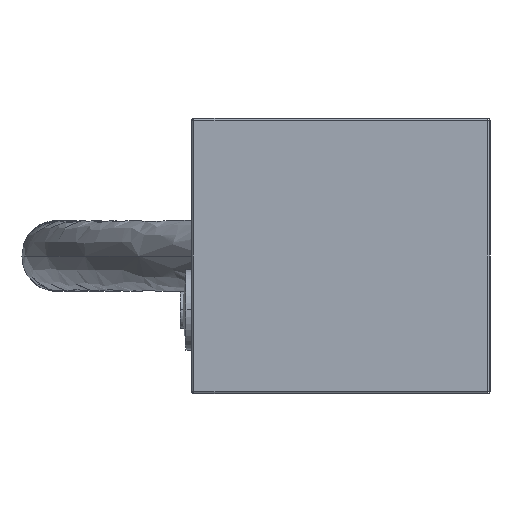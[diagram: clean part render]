
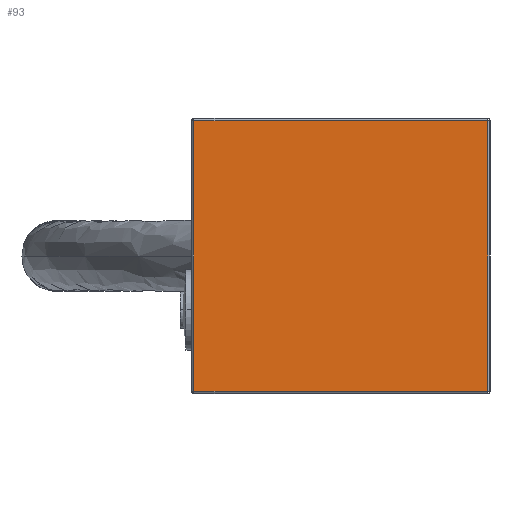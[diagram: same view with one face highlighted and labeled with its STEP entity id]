
A CAD part, left-side view. The second image highlights one B-rep face of the part: STEP entity #93.
In plain terms, the highlighted planar face has unit normal (-1, 0, 0).
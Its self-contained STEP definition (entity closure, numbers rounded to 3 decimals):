
#93 = ADVANCED_FACE ( 'NONE', ( #2069 ), #1743, .F. ) ;
#281 = ORIENTED_EDGE ( 'NONE', *, *, #1241, .F. ) ;
#501 = DIRECTION ( 'NONE',  ( 0., 0., -1. ) ) ;
#613 = EDGE_LOOP ( 'NONE', ( #1952, #281, #618, #2633 ) ) ;
#616 = AXIS2_PLACEMENT_3D ( 'NONE', #2691, #1136, #2940 ) ;
#618 = ORIENTED_EDGE ( 'NONE', *, *, #1751, .F. ) ;
#682 = CARTESIAN_POINT ( 'NONE',  ( 0., 25.8, -12. ) ) ;
#814 = VECTOR ( 'NONE', #501, 1000. ) ;
#968 = VERTEX_POINT ( 'NONE', #2446 ) ;
#987 = CARTESIAN_POINT ( 'NONE',  ( 0., 0.2, 11.8 ) ) ;
#1098 = EDGE_CURVE ( 'NONE', #1221, #1744, #1705, .T. ) ;
#1130 = EDGE_CURVE ( 'NONE', #1298, #1221, #2116, .T. ) ;
#1136 = DIRECTION ( 'NONE',  ( 1., 0., 0. ) ) ;
#1143 = CARTESIAN_POINT ( 'NONE',  ( 0., 0.2, -11.8 ) ) ;
#1221 = VERTEX_POINT ( 'NONE', #1548 ) ;
#1241 = EDGE_CURVE ( 'NONE', #968, #1298, #1870, .T. ) ;
#1298 = VERTEX_POINT ( 'NONE', #1328 ) ;
#1328 = CARTESIAN_POINT ( 'NONE',  ( 0., 0.2, -11.8 ) ) ;
#1548 = CARTESIAN_POINT ( 'NONE',  ( 0., 25.8, -11.8 ) ) ;
#1584 = VECTOR ( 'NONE', #1962, 1000. ) ;
#1705 = LINE ( 'NONE', #682, #1584 ) ;
#1743 = PLANE ( 'NONE',  #616 ) ;
#1744 = VERTEX_POINT ( 'NONE', #3295 ) ;
#1751 = EDGE_CURVE ( 'NONE', #1744, #968, #2826, .T. ) ;
#1870 = LINE ( 'NONE', #3331, #814 ) ;
#1946 = VECTOR ( 'NONE', #2311, 1000. ) ;
#1952 = ORIENTED_EDGE ( 'NONE', *, *, #1130, .F. ) ;
#1962 = DIRECTION ( 'NONE',  ( 0., 0., 1. ) ) ;
#2069 = FACE_OUTER_BOUND ( 'NONE', #613, .T. ) ;
#2116 = LINE ( 'NONE', #1143, #1946 ) ;
#2311 = DIRECTION ( 'NONE',  ( 0., 1., 0. ) ) ;
#2401 = VECTOR ( 'NONE', #3042, 1000. ) ;
#2446 = CARTESIAN_POINT ( 'NONE',  ( 0., 0.2, 11.8 ) ) ;
#2633 = ORIENTED_EDGE ( 'NONE', *, *, #1098, .F. ) ;
#2691 = CARTESIAN_POINT ( 'NONE',  ( 0., 0.2, -12. ) ) ;
#2826 = LINE ( 'NONE', #987, #2401 ) ;
#2940 = DIRECTION ( 'NONE',  ( 0., 1., 0. ) ) ;
#3042 = DIRECTION ( 'NONE',  ( 0., -1., 0. ) ) ;
#3295 = CARTESIAN_POINT ( 'NONE',  ( 0., 25.8, 11.8 ) ) ;
#3331 = CARTESIAN_POINT ( 'NONE',  ( 0., 0.2, -12. ) ) ;
